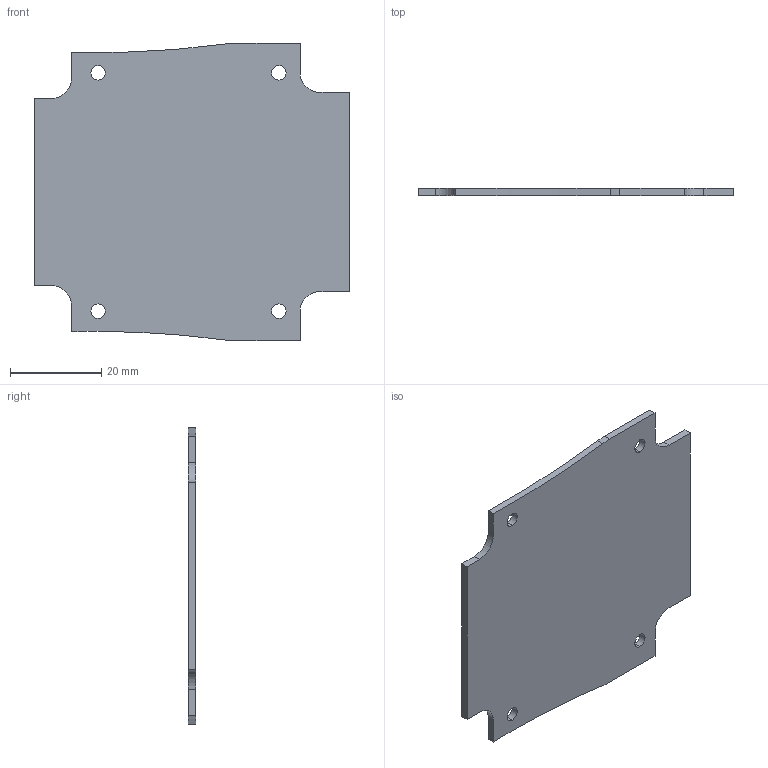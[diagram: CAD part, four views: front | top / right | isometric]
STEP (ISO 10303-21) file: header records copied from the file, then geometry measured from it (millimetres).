
FILE_DESCRIPTION (( 'STEP AP214' ), '1' );
FILE_NAME ('VM-24B-PCB.STEP', '2025-03-26T16:55:04', ( '' ), ( '' ), 'SwSTEP 2.0', 'SolidWorks 2025', '' );
FILE_SCHEMA (( 'AUTOMOTIVE_DESIGN' ));
Length unit declared in the file: inch
Products named in the file (1): VM-24B-PCB
Bounding box: 69.35 x 1.6 x 65.42 mm (x, y, z)
Volume: 6370.8 mm3; surface area: 8439.6 mm2
Topology: 1 solids, 1 shells, 31 faces, 87 edges, 58 vertices
Faces by surface type: cylinder 17, plane 14
Entity records: 1058 total; most frequent: DIRECTION 185, CARTESIAN_POINT 177, ORIENTED_EDGE 174, EDGE_CURVE 87, AXIS2_PLACEMENT_3D 66, VERTEX_POINT 58, LINE 53, VECTOR 53
